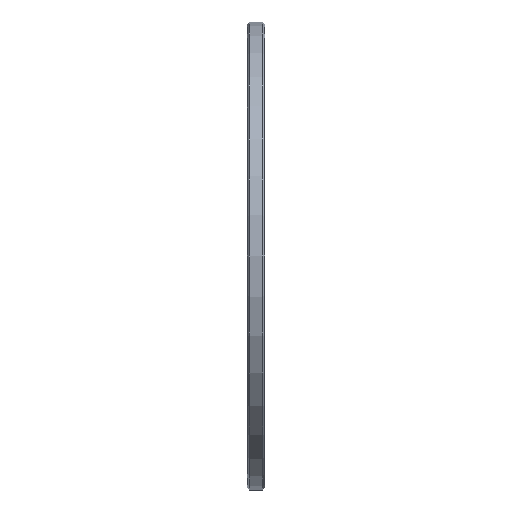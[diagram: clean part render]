
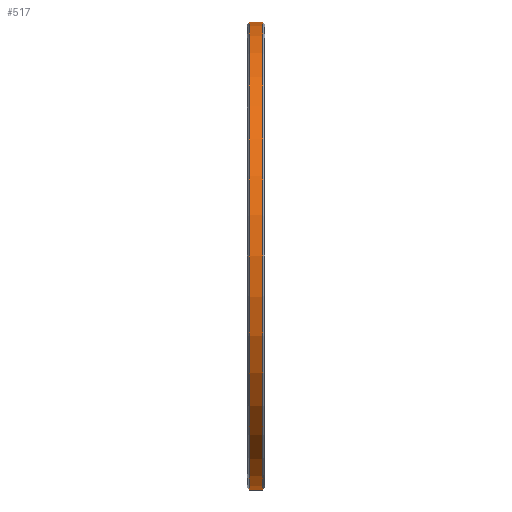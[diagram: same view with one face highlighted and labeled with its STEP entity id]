
A CAD part, left-side view. The second image highlights one B-rep face of the part: STEP entity #517.
In plain terms, the highlighted cylindrical face has radius 160 mm (diameter 320 mm), a partial arc.
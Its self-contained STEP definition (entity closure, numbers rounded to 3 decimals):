
#5 = CARTESIAN_POINT ( 'NONE',  ( 0., 10.5, -160. ) ) ;
#53 = EDGE_CURVE ( 'NONE', #1333, #1097, #1006, .T. ) ;
#113 = AXIS2_PLACEMENT_3D ( 'NONE', #861, #1153, #871 ) ;
#116 = LINE ( 'NONE', #582, #535 ) ;
#176 = DIRECTION ( 'NONE',  ( 0., -1., 0. ) ) ;
#209 = FACE_OUTER_BOUND ( 'NONE', #770, .T. ) ;
#230 = VECTOR ( 'NONE', #548, 1000. ) ;
#234 = VERTEX_POINT ( 'NONE', #5 ) ;
#238 = DIRECTION ( 'NONE',  ( 0., 0., 1. ) ) ;
#265 = ORIENTED_EDGE ( 'NONE', *, *, #808, .T. ) ;
#300 = ORIENTED_EDGE ( 'NONE', *, *, #713, .T. ) ;
#381 = EDGE_CURVE ( 'NONE', #1333, #234, #476, .T. ) ;
#403 = CIRCLE ( 'NONE', #552, 160. ) ;
#443 = CARTESIAN_POINT ( 'NONE',  ( 0., 1.5, 160. ) ) ;
#476 = CIRCLE ( 'NONE', #966, 160. ) ;
#495 = ORIENTED_EDGE ( 'NONE', *, *, #381, .T. ) ;
#517 = ADVANCED_FACE ( 'NONE', ( #209 ), #522, .T. ) ;
#522 = CYLINDRICAL_SURFACE ( 'NONE', #113, 160. ) ;
#535 = VECTOR ( 'NONE', #176, 1000. ) ;
#548 = DIRECTION ( 'NONE',  ( 0., -1., 0. ) ) ;
#552 = AXIS2_PLACEMENT_3D ( 'NONE', #1239, #711, #1338 ) ;
#582 = CARTESIAN_POINT ( 'NONE',  ( 0., 12., -160. ) ) ;
#598 = CARTESIAN_POINT ( 'NONE',  ( 0., 10.5, 160. ) ) ;
#711 = DIRECTION ( 'NONE',  ( 0., 1., 0. ) ) ;
#713 = EDGE_CURVE ( 'NONE', #234, #1128, #116, .T. ) ;
#743 = CARTESIAN_POINT ( 'NONE',  ( 0., 10.5, 0. ) ) ;
#758 = ORIENTED_EDGE ( 'NONE', *, *, #53, .F. ) ;
#770 = EDGE_LOOP ( 'NONE', ( #758, #495, #300, #265 ) ) ;
#808 = EDGE_CURVE ( 'NONE', #1128, #1097, #403, .T. ) ;
#861 = CARTESIAN_POINT ( 'NONE',  ( 0., 12., 0. ) ) ;
#863 = CARTESIAN_POINT ( 'NONE',  ( 0., 1.5, -160. ) ) ;
#871 = DIRECTION ( 'NONE',  ( 0., 0., -1. ) ) ;
#966 = AXIS2_PLACEMENT_3D ( 'NONE', #743, #1278, #238 ) ;
#1006 = LINE ( 'NONE', #1048, #230 ) ;
#1048 = CARTESIAN_POINT ( 'NONE',  ( 0., 12., 160. ) ) ;
#1097 = VERTEX_POINT ( 'NONE', #443 ) ;
#1128 = VERTEX_POINT ( 'NONE', #863 ) ;
#1153 = DIRECTION ( 'NONE',  ( 0., -1., 0. ) ) ;
#1239 = CARTESIAN_POINT ( 'NONE',  ( 0., 1.5, 0. ) ) ;
#1278 = DIRECTION ( 'NONE',  ( 0., -1., 0. ) ) ;
#1333 = VERTEX_POINT ( 'NONE', #598 ) ;
#1338 = DIRECTION ( 'NONE',  ( 0., 0., 1. ) ) ;
